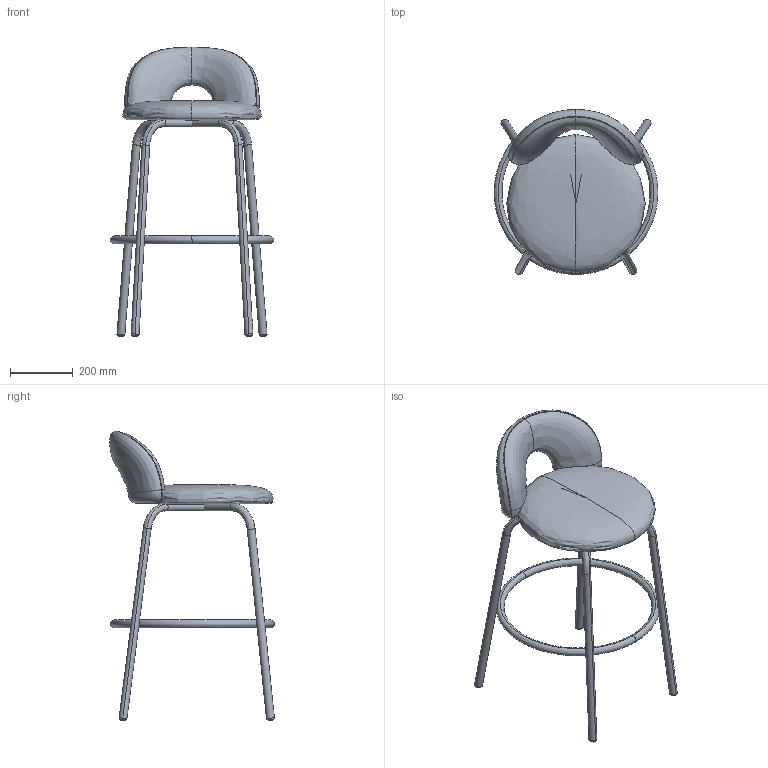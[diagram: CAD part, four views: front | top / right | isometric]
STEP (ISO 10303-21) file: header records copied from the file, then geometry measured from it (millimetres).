
FILE_DESCRIPTION(/* description */ (''),/* implementation_level */ '2;1');
FILE_NAME(/* name */ 'Paulin_M_SG_75_PabloReganoStudio',/* time_stamp */ '2026-04-02T07:29:42+02:00',/* author */ (''),/* organization */ (''),/* preprocessor_version */ 'ST-DEVELOPER v19.2',/* originating_system */ 'Rhino 8.5',/* authorisation */ '');
FILE_SCHEMA (('AP242_MANAGED_MODEL_BASED_3D_ENGINEERING_MIM_LF { 1 0 10303 442 3 1 4 }'));
Length unit declared in the file: millimetre
Products named in the file (1): Document
Bounding box: 520 x 523.33 x 919.54 mm (x, y, z)
Volume: 8360766.1 mm3; surface area: 1126553.6 mm2
Topology: 2 solids, 68 shells, 94 faces, 287 edges, 226 vertices
Faces by surface type: bspline 70, plane 12, cylinder 12
Entity records: 56105 total; most frequent: CARTESIAN_POINT 54264, ORIENTED_EDGE 334, EDGE_CURVE 280, VERTEX_POINT 226, DIRECTION 166, AXIS2_PLACEMENT_3D 95, ADVANCED_FACE 94, FACE_OUTER_BOUND 94
